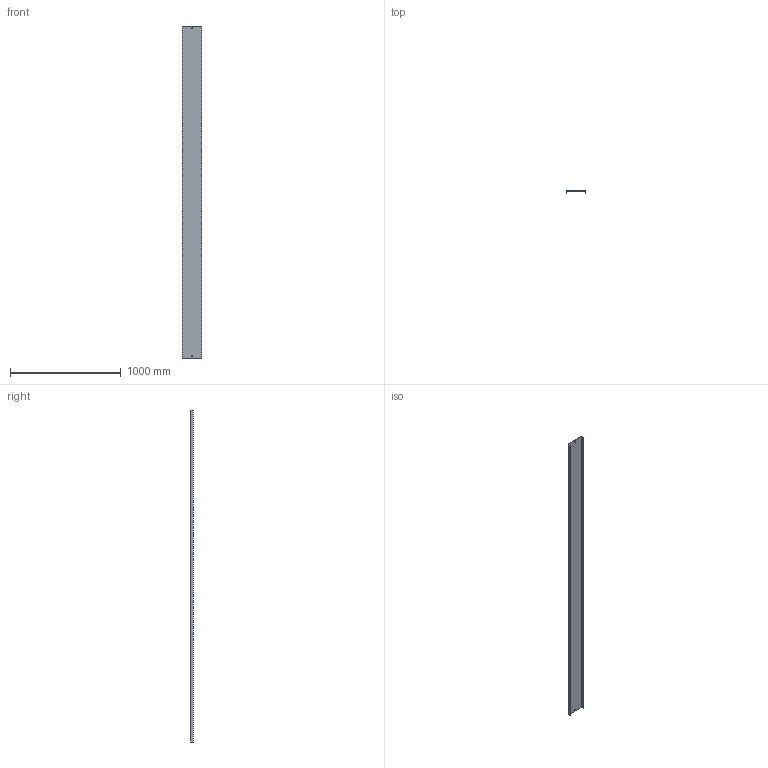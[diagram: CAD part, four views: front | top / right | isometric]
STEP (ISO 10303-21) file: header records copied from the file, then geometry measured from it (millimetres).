
FILE_DESCRIPTION (( 'STEP AP214' ), '1' );
FILE_NAME ('05G3P150.step', '2025-02-21T14:22:15', ( '' ), ( '' ), 'SwSTEP 2.0', 'SolidWorks 2023', '' );
FILE_SCHEMA (( 'AUTOMOTIVE_DESIGN' ));
Length unit declared in the file: millimetre
Products named in the file (1): 05G3P150
Bounding box: 173 x 20 x 3000 mm (x, y, z)
Volume: 944824.5 mm3; surface area: 1269489 mm2
Topology: 1 solids, 1 shells, 18 faces, 48 edges, 32 vertices
Faces by surface type: plane 18
Entity records: 583 total; most frequent: CARTESIAN_POINT 99, ORIENTED_EDGE 96, DIRECTION 86, LINE 48, VECTOR 48, EDGE_CURVE 48, VERTEX_POINT 32, EDGE_LOOP 22
